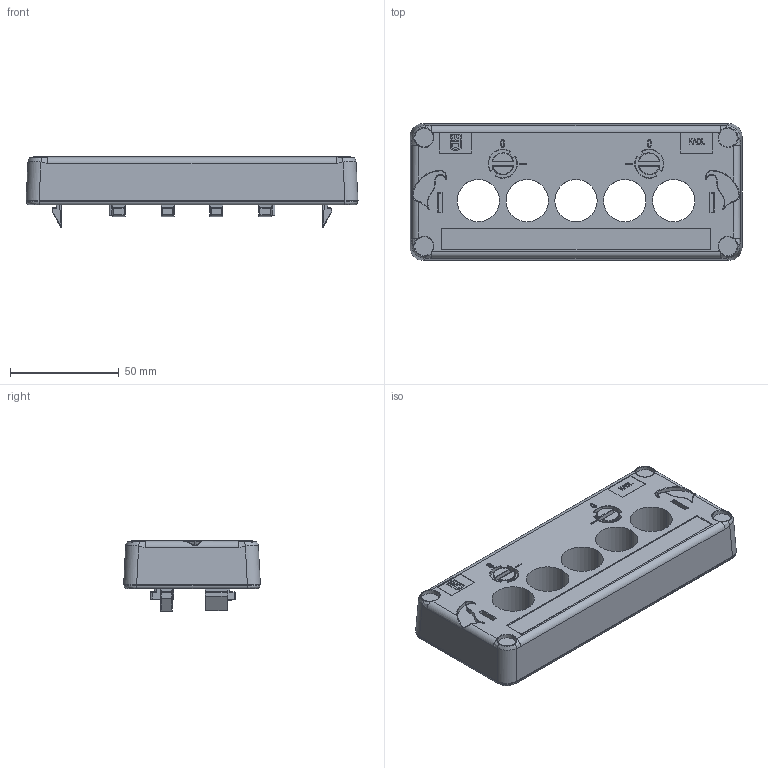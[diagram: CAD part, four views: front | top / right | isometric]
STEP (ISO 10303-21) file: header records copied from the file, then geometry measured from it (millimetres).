
FILE_DESCRIPTION (( 'STEP AP214' ), '1' );
FILE_NAME ('KADL-5K.STEP', '2019-03-11T19:09:45', ( '' ), ( '' ), 'SwSTEP 2.0', 'SolidWorks 2018', '' );
FILE_SCHEMA (( 'AUTOMOTIVE_DESIGN' ));
Length unit declared in the file: millimetre
Products named in the file (1): KADL-5K
Bounding box: 153 x 63 x 32.7 mm (x, y, z)
Surface area: 34339.6 mm2
Topology: 8 solids, 9 shells, 1105 faces, 2701 edges, 1613 vertices
Faces by surface type: cylinder 407, bspline 356, plane 341, sphere 1
Entity records: 42512 total; most frequent: CARTESIAN_POINT 19374, ORIENTED_EDGE 5328, DIRECTION 4083, EDGE_CURVE 2664, VERTEX_POINT 1613, AXIS2_PLACEMENT_3D 1472, EDGE_LOOP 1153, LINE 1139
